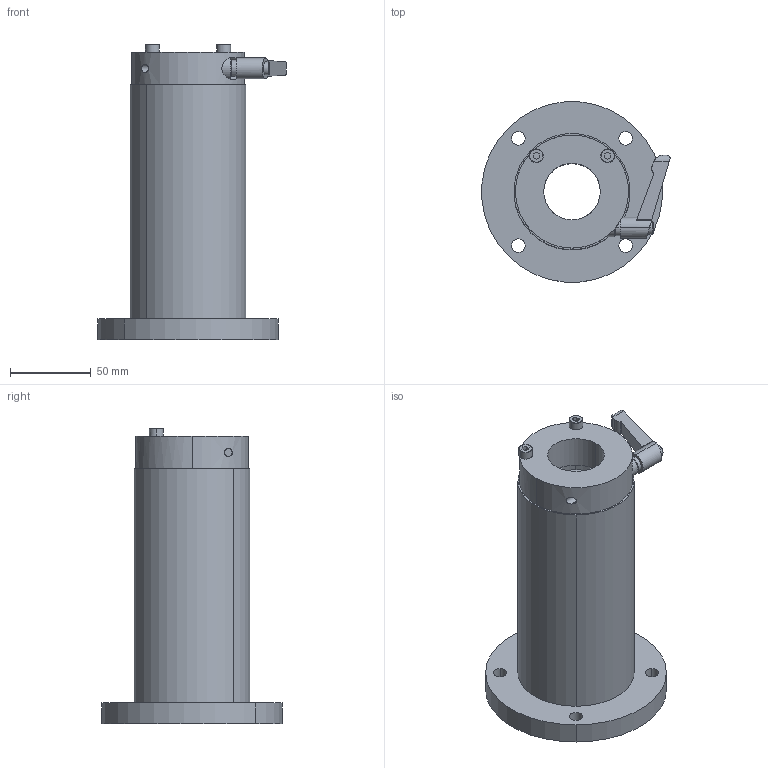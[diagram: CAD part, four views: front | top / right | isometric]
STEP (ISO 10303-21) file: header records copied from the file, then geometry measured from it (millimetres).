
FILE_DESCRIPTION (( 'STEP AP214' ), '1' );
FILE_NAME ('LFW35-CS.STEP', '2023-06-27T01:55:57', ( '' ), ( '' ), 'SwSTEP 2.0', 'SolidWorks 2019', '' );
FILE_SCHEMA (( 'AUTOMOTIVE_DESIGN' ));
Length unit declared in the file: millimetre
Products named in the file (3): “ÁSCK3520SS-S5.5; LFW35-CS; LFW35
Assembly tree (2 placements, depth 2):
  LFW35-CS
    LFW35
    “ÁSCK3520SS-S5.5
Bounding box: 116.49 x 111.57 x 183 mm (x, y, z)
Volume: 604501.8 mm3; surface area: 101110.7 mm2
Topology: 3 solids, 8 shells, 191 faces, 485 edges, 304 vertices
Faces by surface type: cylinder 76, plane 57, bspline 39, cone 11, torus 8
Entity records: 8494 total; most frequent: CARTESIAN_POINT 1871, DIRECTION 1030, ORIENTED_EDGE 970, EDGE_CURVE 485, AXIS2_PLACEMENT_3D 431, VERTEX_POINT 304, CIRCLE 274, EDGE_LOOP 231
